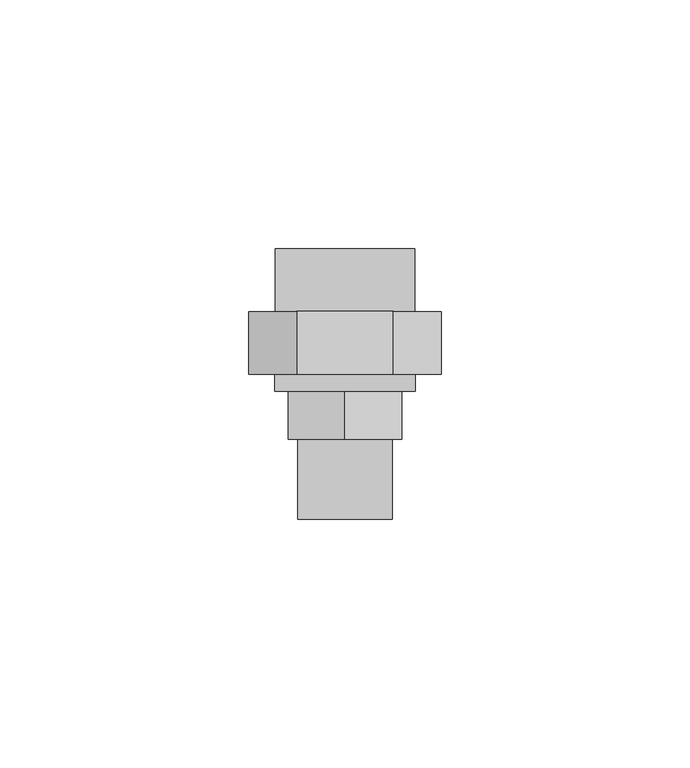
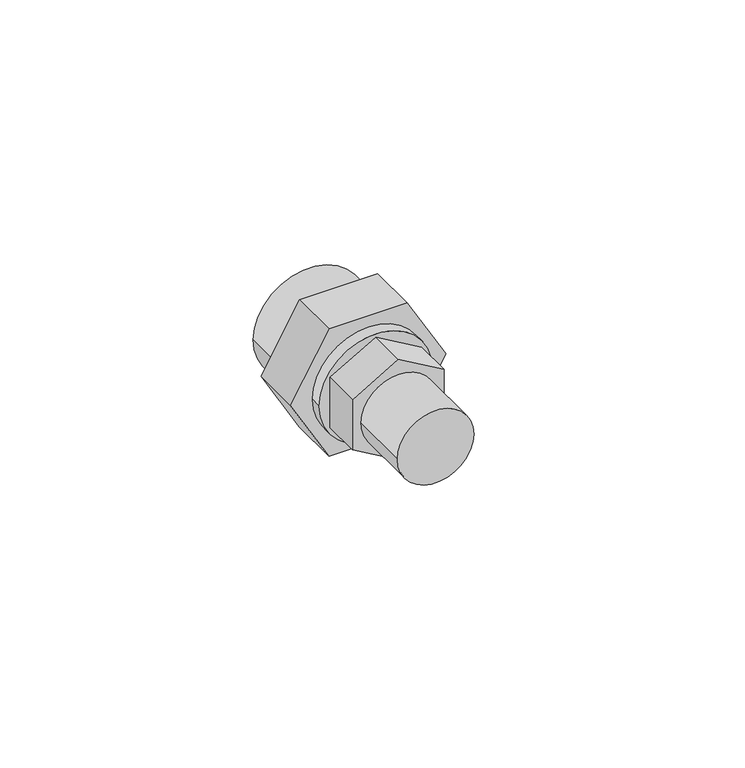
"""IFC4 building model written with IfcOpenShell, lengths in millimetres: pipe fitting geometry, EGB_VASEN_ PPR_Enlace desmontable rosca macho WXR103 : Enlace desmontable rosca macho WXR103."""

from ifc_helpers import new_model, si_unit, point, frame, origin, origin_2d, place, context, project, spatial, polyline, circle_curve, trimmed, segment, composite_curve, outline, extrude, source, transform, mapped, element, save


def pipe_fitting_775f4887(model_context):
    return source(origin(), model_context, "Body", "SweptSolid", [
        extrude(outline(polyline([(-6.5991136, -11.43), (-13.1982272, 0.0), (-6.5991136, 11.43), (6.5991136, 11.43), (13.1982272, 0.0), (6.5991136, -11.43), (-6.5991136, -11.43)])), frame((0.0, -25.0879167, 0.0), z_axis=(0.0, 1.0, 0.0), x_axis=(0.0, 0.0, 1.0)), (0.0, 0.0, 1.0), 9.6666667),
        extrude(outline(polyline([(0.0, 19.398969), (16.8, 9.6994845), (16.8, -9.6994845), (0.0, -19.398969), (-16.8, -9.6994845), (-16.8, 9.6994845), (0.0, 19.398969)])), frame((0.0, -12.05375, 0.0), z_axis=(0.0, 1.0, 0.0), x_axis=(0.0, 0.0, 1.0)), (0.0, 0.0, 1.0), 12.6666667),
        extrude(outline(composite_curve([segment(trimmed(circle_curve(origin_2d(), 9.525), [point((0.0, -9.525))], [point((0.0, 9.525))], False, "CARTESIAN"), True, "CONTINUOUS"), segment(trimmed(circle_curve(origin_2d(), 9.525), [point((0.0, 9.525))], [point((0.0, -9.525))], False, "CARTESIAN"), True, "CONTINUOUS")], self_intersect=False)), frame((0.0, -41.2204167, 0.0), z_axis=(0.0, 1.0, 0.0), x_axis=(0.0, 0.0, 1.0)), (0.0, 0.0, 1.0), 16.5),
        extrude(outline(composite_curve([segment(trimmed(circle_curve(origin_2d(), 14.115), [point((0.0, -14.115))], [point((0.0, 14.115))], False, "CARTESIAN"), True, "CONTINUOUS"), segment(trimmed(circle_curve(origin_2d(), 14.115), [point((0.0, 14.115))], [point((0.0, -14.115))], False, "CARTESIAN"), True, "CONTINUOUS")], self_intersect=False)), frame((0.0, -15.42125, 0.0), z_axis=(0.0, 1.0, 0.0), x_axis=(0.0, 0.0, 1.0)), (0.0, 0.0, 1.0), 3.3675),
        extrude(outline(composite_curve([segment(trimmed(circle_curve(origin_2d(), 14.0), [point((0.0, -14.0))], [point((0.0, 14.0))], False, "CARTESIAN"), True, "CONTINUOUS"), segment(trimmed(circle_curve(origin_2d(), 14.0), [point((0.0, 14.0))], [point((0.0, -14.0))], False, "CARTESIAN"), True, "CONTINUOUS")], self_intersect=False), holes=[composite_curve([segment(trimmed(circle_curve(origin_2d(), 10.0), [point((0.0, -10.0))], [point((0.0, 10.0))], True, "CARTESIAN"), True, "CONTINUOUS"), segment(trimmed(circle_curve(origin_2d(), 10.0), [point((0.0, 10.0))], [point((0.0, -10.0))], True, "CARTESIAN"), True, "CONTINUOUS")], self_intersect=False)]), frame((0.0, 0.6129167, 0.0), z_axis=(0.0, 1.0, 0.0), x_axis=(0.0, 0.0, 1.0)), (0.0, 0.0, 1.0), 12.6666667),
    ])


if __name__ == "__main__":
    model = new_model("IFC4")
    model_context = context("Model", 3, world=origin())
    ifc_project = project(units=[si_unit("LENGTHUNIT", "METRE", prefix="MILLI")], contexts=[model_context])
    site = spatial("IfcSite", under=ifc_project)
    building = spatial("IfcBuilding", under=site)
    placement = place(None, origin())
    pipe_fitting_shape = pipe_fitting_775f4887(model_context)
    element("IfcPipeFitting", 1, ObjectType="EGB_VASEN_ PPR_Enlace desmontable rosca macho WXR103 : Enlace desmontable rosca macho WXR103", at=placement, inside=building, context=model_context, shape_type="MappedRepresentation", body=[
        mapped(pipe_fitting_shape, transform((0.0, 0.0, 0.0), x_axis=(1.0, 0.0, 0.0), y_axis=(0.0, 1.0, 0.0), z_axis=(0.0, 0.0, 1.0))),
    ])
    save(model, "model.ifc")
